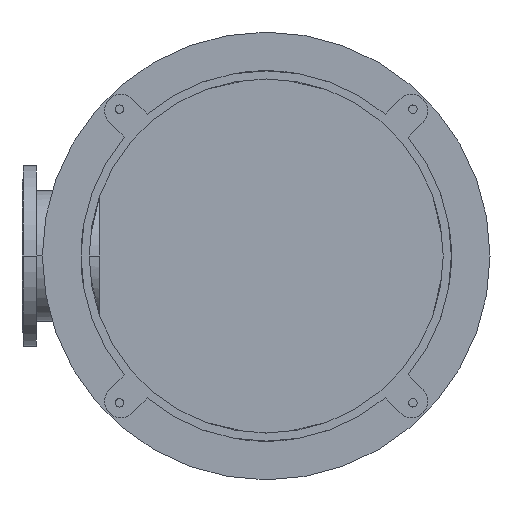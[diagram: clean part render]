
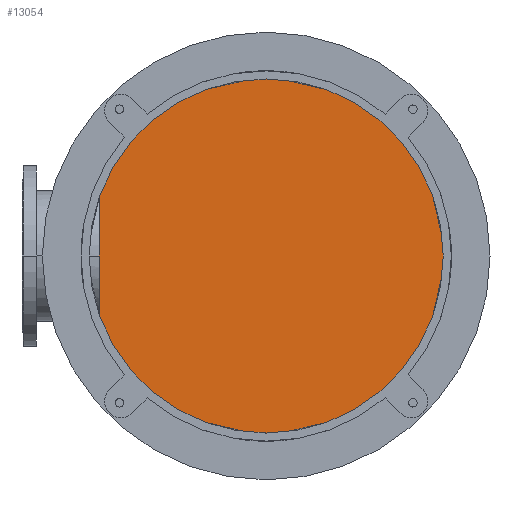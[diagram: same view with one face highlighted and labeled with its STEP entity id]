
A CAD part, front view. The second image highlights one B-rep face of the part: STEP entity #13054.
In plain terms, the highlighted planar face has unit normal (0, -1, 0).
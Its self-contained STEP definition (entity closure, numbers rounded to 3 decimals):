
#3517=CARTESIAN_POINT('',(0.,1000.,0.));
#3518=DIRECTION('',(0.,-1.,0.));
#3519=DIRECTION('',(0.,0.,-1.));
#3520=AXIS2_PLACEMENT_3D('',#3517,#3518,#3519);
#3603=CARTESIAN_POINT('',(0.,1000.,0.));
#3604=DIRECTION('',(0.,-1.,0.));
#3605=DIRECTION('',(0.,0.,1.));
#3606=AXIS2_PLACEMENT_3D('',#3603,#3604,#3605);
#7229=CARTESIAN_POINT('',(0.,1000.,450.));
#7230=CARTESIAN_POINT('',(0.,1000.,-450.));
#7231=VERTEX_POINT('',#7229);
#7232=VERTEX_POINT('',#7230);
#13045=CARTESIAN_POINT('',(0.,1000.,0.));
#13046=DIRECTION('',(0.,1.,0.));
#13047=DIRECTION('',(0.,0.,-1.));
#13048=AXIS2_PLACEMENT_3D('',#13045,#13046,#13047);
#13049=PLANE('',#13048);
#13050=ORIENTED_EDGE('',*,*,#13025,.F.);
#13051=ORIENTED_EDGE('',*,*,#12936,.F.);
#13052=EDGE_LOOP('',(#13050,#13051));
#13053=FACE_OUTER_BOUND('',#13052,.F.);
#13054=ADVANCED_FACE('',(#13053),#13049,.F.);
#3521=CIRCLE('',#3520,450.);
#3607=CIRCLE('',#3606,450.);
#12936=EDGE_CURVE('',#7232,#7231,#3521,.T.);
#13025=EDGE_CURVE('',#7231,#7232,#3607,.T.);
